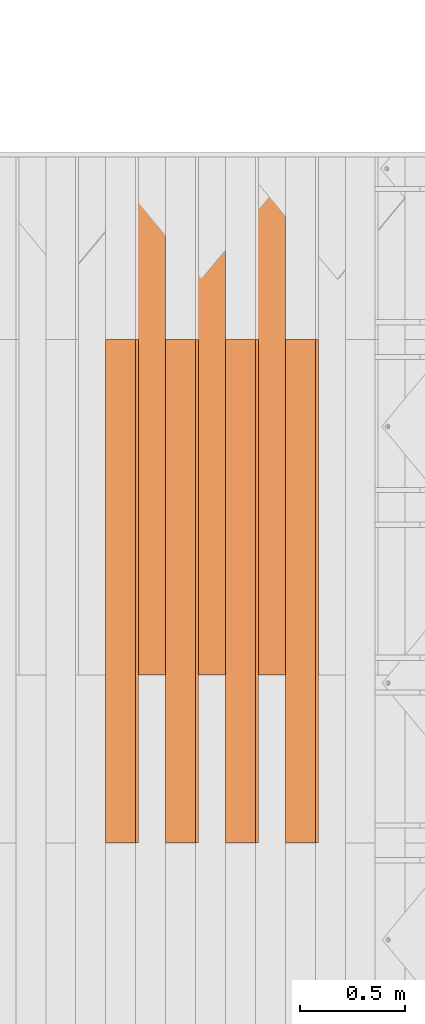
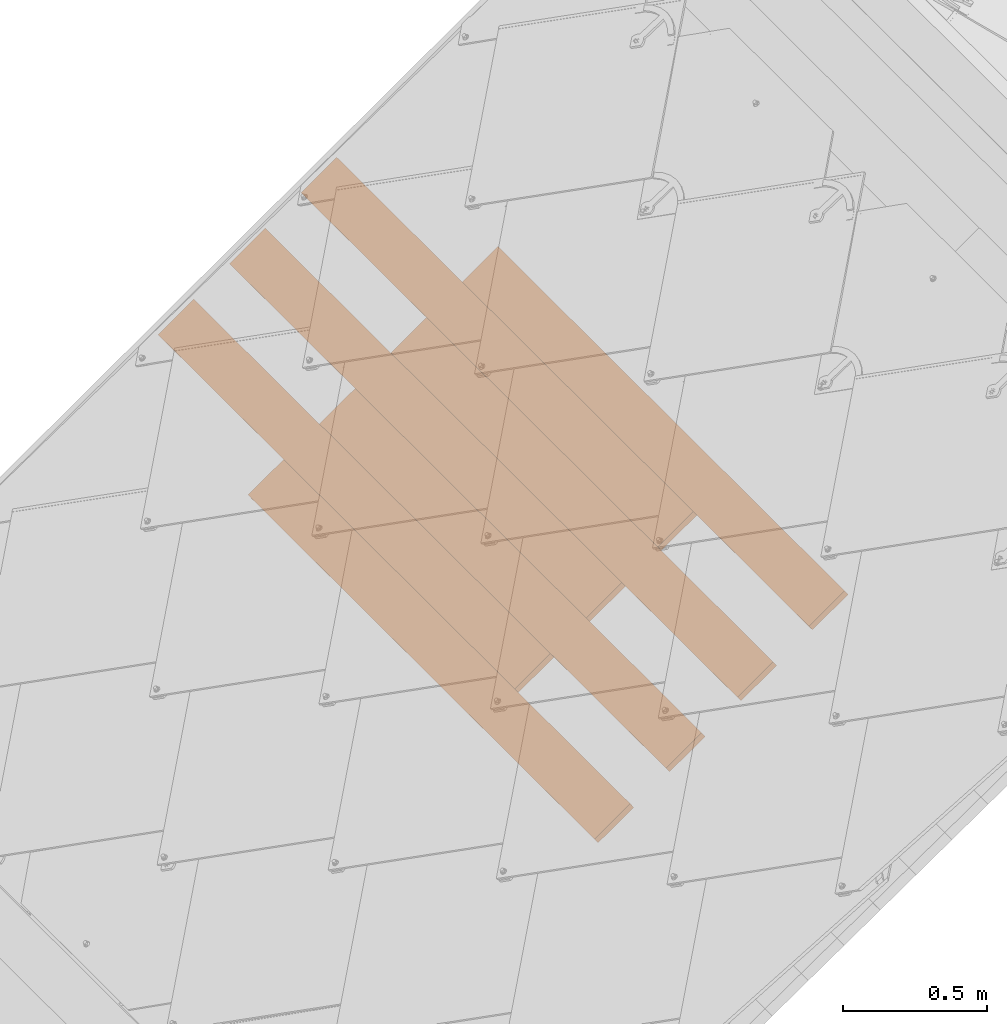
# One storey, part 56 of 151: 7 proxies, 1 element without a shape of its own.
"""IFC2X3 building model written with IfcOpenShell, lengths in millimetres."""

from ifc_helpers import new_model, entity, si_unit, converted_unit, derived_unit, direction, frame, frame_2d, origin, place, context, subcontext, project, spatial, rectangle, extrude, source, transform, mapped, material, type_object, type_shapes, element, aggregate, save


model = new_model("IFC2X3")

# Units and contexts
model_context = context("Model", 3, precision=0.01, world=origin(), true_north=direction((6.12303176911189e-17, 1.0)))
body_context = subcontext(model_context, "Body", "Model", "MODEL_VIEW")
ifc_project = project(units=[si_unit("LENGTHUNIT", "METRE", prefix="MILLI"), si_unit("AREAUNIT", "SQUARE_METRE"), si_unit("VOLUMEUNIT", "CUBIC_METRE"), converted_unit("PLANEANGLEUNIT", "DEGREE", entity("IfcRatioMeasure", 0.0174532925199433), si_unit("PLANEANGLEUNIT", "RADIAN"), dimensions=[0, 0, 0, 0, 0, 0, 0]), si_unit("MASSUNIT", "GRAM", prefix="KILO"), derived_unit("MASSDENSITYUNIT", [(si_unit("MASSUNIT", "GRAM", prefix="KILO"), 1), (si_unit("LENGTHUNIT", "METRE"), -3)]), si_unit("TIMEUNIT", "SECOND"), si_unit("FREQUENCYUNIT", "HERTZ"), si_unit("THERMODYNAMICTEMPERATUREUNIT", "DEGREE_CELSIUS"), derived_unit("THERMALTRANSMITTANCEUNIT", [(si_unit("MASSUNIT", "GRAM", prefix="KILO"), 1), (si_unit("THERMODYNAMICTEMPERATUREUNIT", "KELVIN"), -1), (si_unit("TIMEUNIT", "SECOND"), -3)]), derived_unit("VOLUMETRICFLOWRATEUNIT", [(si_unit("LENGTHUNIT", "METRE"), 3), (si_unit("TIMEUNIT", "SECOND"), -1)]), si_unit("ELECTRICCURRENTUNIT", "AMPERE"), si_unit("ELECTRICVOLTAGEUNIT", "VOLT"), si_unit("POWERUNIT", "WATT"), si_unit("FORCEUNIT", "NEWTON", prefix="KILO"), si_unit("ILLUMINANCEUNIT", "LUX"), si_unit("LUMINOUSFLUXUNIT", "LUMEN"), si_unit("LUMINOUSINTENSITYUNIT", "CANDELA"), derived_unit("USERDEFINED", [(si_unit("MASSUNIT", "GRAM", prefix="KILO"), -1), (si_unit("LENGTHUNIT", "METRE"), -2), (si_unit("TIMEUNIT", "SECOND"), 3), (si_unit("LUMINOUSFLUXUNIT", "LUMEN"), 1)]), derived_unit("LINEARVELOCITYUNIT", [(si_unit("LENGTHUNIT", "METRE"), 1), (si_unit("TIMEUNIT", "SECOND"), -1)]), si_unit("PRESSUREUNIT", "PASCAL"), derived_unit("USERDEFINED", [(si_unit("LENGTHUNIT", "METRE"), -2), (si_unit("MASSUNIT", "GRAM", prefix="KILO"), 1), (si_unit("TIMEUNIT", "SECOND"), -2)])], contexts=[model_context])

# Site, building, storey
site_placement = place(None, origin())
site = spatial("IfcSite", under=ifc_project, at=site_placement, Name="Default", CompositionType="ELEMENT")
building_placement = place(site_placement, origin())
building = spatial("IfcBuilding", under=site, at=building_placement, CompositionType="ELEMENT")
storey_placement = place(building_placement, origin())
storey = spatial("IfcBuildingStorey", under=building, at=storey_placement, Name="Level 1", CompositionType="ELEMENT", Elevation=0.0)

# Assembly, proxies
assembly_placement = place(storey_placement, origin())
assembly = element("IfcElementAssembly", 1, at=assembly_placement, inside=storey, Name="Structural Framing Assembly:Roof Construction Assembly", ObjectType="Structural Framing Assembly:Roof Construction Assembly", AssemblyPlace="NOTDEFINED", PredefinedType="USERDEFINED")
ifc_material = material(Name="Wood - Generic - Wood For Showcase")
building_element_proxy_type_1 = type_object("IfcBuildingElementProxyType", Name="Structural Framing 15", PredefinedType="NOTDEFINED", material=ifc_material)
shared_shape_1 = source(origin(), body_context, "Body", "SweptSolid", [
    extrude(rectangle(XDim=24.9999999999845, YDim=174.344679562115, at=frame_2d((-1.77635683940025e-13, -4.54747350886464e-13), x_axis=(0.0, 1.0))), frame((1128.20180147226, 1525.55080214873, 2760.23940055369), z_axis=(0.0, 1.0, 0.0), x_axis=(-0.819152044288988, 0.0, -0.573576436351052)), (0.0, 0.0, 1.0), 2399.99999999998),
])
type_shapes(building_element_proxy_type_1, [shared_shape_1])
proxy_1_placement = place(assembly_placement, frame((-1227.84533495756, -870.0, -900.0)))
proxy_1 = element("IfcBuildingElementProxy", 2, at=proxy_1_placement, type_object=building_element_proxy_type_1, material=ifc_material, Name="Structural Framing 60:Structural Framing 15", ObjectType="Structural Framing 60:Structural Framing 15", context=body_context, shape_type="MappedRepresentation", body=[
    mapped(shared_shape_1, transform((0.0, 0.0, 0.0), scale=1.0)),
])
building_element_proxy_type_2 = type_object("IfcBuildingElementProxyType", Name="Structural Framing 15", PredefinedType="NOTDEFINED", material=ifc_material)
shared_shape_2 = source(origin(), body_context, "Body", "SweptSolid", [
    extrude(rectangle(XDim=24.9999999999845, YDim=174.344679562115, at=frame_2d((-1.77635683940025e-13, -4.54747350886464e-13), x_axis=(0.0, 1.0))), frame((1128.20180147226, 1455.55080214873, 2760.23940055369), z_axis=(0.0, 1.0, 0.0), x_axis=(-0.819152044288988, 0.0, -0.573576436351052)), (0.0, 0.0, 1.0), 2469.99999999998),
])
type_shapes(building_element_proxy_type_2, [shared_shape_2])
proxy_2_placement = place(assembly_placement, frame((-1370.66013563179, 0.0, -1000.0)))
proxy_2 = element("IfcBuildingElementProxy", 3, at=proxy_2_placement, type_object=building_element_proxy_type_2, material=ifc_material, Name="Structural Framing 65:Structural Framing 15", ObjectType="Structural Framing 65:Structural Framing 15", context=body_context, shape_type="MappedRepresentation", body=[
    mapped(shared_shape_2, transform((0.0, 0.0, 0.0), scale=1.0)),
])
building_element_proxy_type_3 = type_object("IfcBuildingElementProxyType", Name="Structural Framing 15", PredefinedType="NOTDEFINED", material=ifc_material)
shared_shape_3 = source(origin(), body_context, "Body", "SweptSolid", [
    extrude(rectangle(XDim=24.9999999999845, YDim=174.344679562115, at=frame_2d((-1.77635683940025e-13, -4.54747350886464e-13), x_axis=(0.0, 1.0))), frame((1128.20180147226, 1525.55080214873, 2760.23940055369), z_axis=(0.0, 1.0, 0.0), x_axis=(-0.819152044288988, 0.0, -0.573576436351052)), (0.0, 0.0, 1.0), 2399.99999999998),
])
type_shapes(building_element_proxy_type_3, [shared_shape_3])
proxy_3_placement = place(assembly_placement, frame((-1513.47493630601, -870.0, -1100.0)))
proxy_3 = element("IfcBuildingElementProxy", 4, at=proxy_3_placement, type_object=building_element_proxy_type_3, material=ifc_material, Name="Structural Framing 70:Structural Framing 15", ObjectType="Structural Framing 70:Structural Framing 15", context=body_context, shape_type="MappedRepresentation", body=[
    mapped(shared_shape_3, transform((0.0, 0.0, 0.0), scale=1.0)),
])
building_element_proxy_type_4 = type_object("IfcBuildingElementProxyType", Name="Structural Framing 15", PredefinedType="NOTDEFINED", material=ifc_material)
shared_shape_4 = source(origin(), body_context, "Body", "SweptSolid", [
    extrude(rectangle(XDim=24.9999999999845, YDim=174.344679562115, at=frame_2d((-1.77635683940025e-13, -4.54747350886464e-13), x_axis=(0.0, 1.0))), frame((1128.20180147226, 1455.55080214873, 2760.23940055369), z_axis=(0.0, 1.0, 0.0), x_axis=(-0.819152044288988, 0.0, -0.573576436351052)), (0.0, 0.0, 1.0), 2469.99999999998),
])
type_shapes(building_element_proxy_type_4, [shared_shape_4])
proxy_4_placement = place(assembly_placement, frame((-1656.28973698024, 0.0, -1200.0)))
proxy_4 = element("IfcBuildingElementProxy", 5, at=proxy_4_placement, type_object=building_element_proxy_type_4, material=ifc_material, Name="Structural Framing 75:Structural Framing 15", ObjectType="Structural Framing 75:Structural Framing 15", context=body_context, shape_type="MappedRepresentation", body=[
    mapped(shared_shape_4, transform((0.0, 0.0, 0.0), scale=1.0)),
])
building_element_proxy_type_5 = type_object("IfcBuildingElementProxyType", Name="Structural Framing 15", PredefinedType="NOTDEFINED", material=ifc_material)
shared_shape_5 = source(origin(), body_context, "Body", "SweptSolid", [
    extrude(rectangle(XDim=24.9999999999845, YDim=174.344679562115, at=frame_2d((-1.77635683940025e-13, -4.54747350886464e-13), x_axis=(0.0, 1.0))), frame((1128.20180147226, 1525.55080214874, 2760.23940055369), z_axis=(0.0, 1.0, 0.0), x_axis=(-0.819152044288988, 0.0, -0.573576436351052)), (0.0, 0.0, 1.0), 2399.99999999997),
])
type_shapes(building_element_proxy_type_5, [shared_shape_5])
proxy_5_placement = place(assembly_placement, frame((-1799.10453765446, -870.0, -1300.0)))
proxy_5 = element("IfcBuildingElementProxy", 6, at=proxy_5_placement, type_object=building_element_proxy_type_5, material=ifc_material, Name="Structural Framing 80:Structural Framing 15", ObjectType="Structural Framing 80:Structural Framing 15", context=body_context, shape_type="MappedRepresentation", body=[
    mapped(shared_shape_5, transform((0.0, 0.0, 0.0), scale=1.0)),
])
building_element_proxy_type_6 = type_object("IfcBuildingElementProxyType", Name="Structural Framing 15", PredefinedType="NOTDEFINED", material=ifc_material)
shared_shape_6 = source(origin(), body_context, "Body", "SweptSolid", [
    extrude(rectangle(XDim=24.9999999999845, YDim=174.344679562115, at=frame_2d((-1.77635683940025e-13, -4.54747350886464e-13), x_axis=(0.0, 1.0))), frame((1128.20180147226, 1455.55080214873, 2760.23940055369), z_axis=(0.0, 1.0, 0.0), x_axis=(-0.819152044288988, 0.0, -0.573576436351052)), (0.0, 0.0, 1.0), 2469.99999999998),
])
type_shapes(building_element_proxy_type_6, [shared_shape_6])
proxy_6_placement = place(assembly_placement, frame((-1941.91933832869, 0.0, -1400.0)))
proxy_6 = element("IfcBuildingElementProxy", 7, at=proxy_6_placement, type_object=building_element_proxy_type_6, material=ifc_material, Name="Structural Framing 85:Structural Framing 15", ObjectType="Structural Framing 85:Structural Framing 15", context=body_context, shape_type="MappedRepresentation", body=[
    mapped(shared_shape_6, transform((0.0, 0.0, 0.0), scale=1.0)),
])
building_element_proxy_type_7 = type_object("IfcBuildingElementProxyType", Name="Structural Framing 15", PredefinedType="NOTDEFINED", material=ifc_material)
shared_shape_7 = source(origin(), body_context, "Body", "SweptSolid", [
    extrude(rectangle(XDim=24.9999999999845, YDim=174.344679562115, at=frame_2d((-1.77635683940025e-13, -4.54747350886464e-13), x_axis=(0.0, 1.0))), frame((1128.20180147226, 1525.55080214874, 2760.23940055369), z_axis=(0.0, 1.0, 0.0), x_axis=(-0.819152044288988, 0.0, -0.573576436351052)), (0.0, 0.0, 1.0), 2399.99999999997),
])
type_shapes(building_element_proxy_type_7, [shared_shape_7])
proxy_7_placement = place(assembly_placement, frame((-2084.73413900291, -870.0, -1500.0)))
proxy_7 = element("IfcBuildingElementProxy", 8, at=proxy_7_placement, type_object=building_element_proxy_type_7, material=ifc_material, Name="Structural Framing 90:Structural Framing 15", ObjectType="Structural Framing 90:Structural Framing 15", context=body_context, shape_type="MappedRepresentation", body=[
    mapped(shared_shape_7, transform((0.0, 0.0, 0.0), scale=1.0)),
])
aggregate(assembly, [proxy_1, proxy_2, proxy_3, proxy_4, proxy_5, proxy_6, proxy_7])

save(model, "model.ifc")
